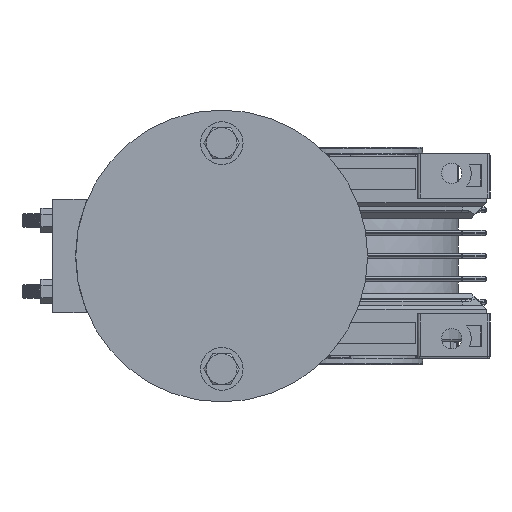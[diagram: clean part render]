
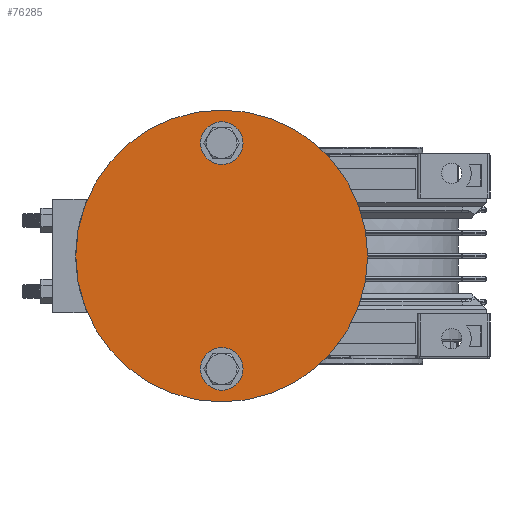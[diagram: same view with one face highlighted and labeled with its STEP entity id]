
A CAD part, left-side view. The second image highlights one B-rep face of the part: STEP entity #76285.
In plain terms, the highlighted planar face has unit normal (-1, 0, 0).
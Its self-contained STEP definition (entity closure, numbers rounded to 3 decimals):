
#1574 = AXIS2_PLACEMENT_3D ( 'NONE', #2242, #46233, #8576 ) ;
#1761 = EDGE_CURVE ( 'NONE', #58002, #74027, #54188, .T. ) ;
#1968 = VERTEX_POINT ( 'NONE', #28160 ) ;
#2123 = ORIENTED_EDGE ( 'NONE', *, *, #19929, .F. ) ;
#2242 = CARTESIAN_POINT ( 'NONE',  ( 87.03, 247.758, 0. ) ) ;
#2752 = EDGE_CURVE ( 'NONE', #43378, #1968, #4810, .T. ) ;
#4402 = EDGE_LOOP ( 'NONE', ( #2123, #25459 ) ) ;
#4810 = CIRCLE ( 'NONE', #44171, 61.75 ) ;
#8051 = FACE_BOUND ( 'NONE', #4402, .T. ) ;
#8576 = DIRECTION ( 'NONE',  ( 0., 0., 1. ) ) ;
#9599 = CIRCLE ( 'NONE', #76162, 9.005 ) ;
#10618 = DIRECTION ( 'NONE',  ( -1., 0., 0. ) ) ;
#13955 = CIRCLE ( 'NONE', #41135, 61.75 ) ;
#16016 = AXIS2_PLACEMENT_3D ( 'NONE', #32278, #76328, #38644 ) ;
#17459 = CARTESIAN_POINT ( 'NONE',  ( 87.03, 186.008, -38.775 ) ) ;
#17540 = CIRCLE ( 'NONE', #61797, 9.005 ) ;
#18908 = EDGE_CURVE ( 'NONE', #26390, #21660, #17540, .T. ) ;
#19427 = CARTESIAN_POINT ( 'NONE',  ( 87.03, 186.008, 47.78 ) ) ;
#19929 = EDGE_CURVE ( 'NONE', #21660, #26390, #33081, .T. ) ;
#20122 = DIRECTION ( 'NONE',  ( 1., 0., 0. ) ) ;
#21197 = CARTESIAN_POINT ( 'NONE',  ( 87.03, 186.008, 47.78 ) ) ;
#21660 = VERTEX_POINT ( 'NONE', #69116 ) ;
#23392 = ORIENTED_EDGE ( 'NONE', *, *, #1761, .F. ) ;
#24872 = ORIENTED_EDGE ( 'NONE', *, *, #72509, .F. ) ;
#25459 = ORIENTED_EDGE ( 'NONE', *, *, #18908, .F. ) ;
#25718 = DIRECTION ( 'NONE',  ( 0., 0., 1. ) ) ;
#26390 = VERTEX_POINT ( 'NONE', #17459 ) ;
#27083 = DIRECTION ( 'NONE',  ( 1., 0., 0. ) ) ;
#27487 = DIRECTION ( 'NONE',  ( 0., 0., 1. ) ) ;
#28160 = CARTESIAN_POINT ( 'NONE',  ( 87.03, 186.008, -61.75 ) ) ;
#28356 = EDGE_LOOP ( 'NONE', ( #23392, #24872 ) ) ;
#32216 = CARTESIAN_POINT ( 'NONE',  ( 87.03, 186.008, 38.775 ) ) ;
#32278 = CARTESIAN_POINT ( 'NONE',  ( 87.03, 186.008, -47.78 ) ) ;
#33081 = CIRCLE ( 'NONE', #16016, 9.005 ) ;
#37555 = FACE_BOUND ( 'NONE', #28356, .T. ) ;
#38644 = DIRECTION ( 'NONE',  ( 0., 0., -1. ) ) ;
#40251 = ORIENTED_EDGE ( 'NONE', *, *, #2752, .F. ) ;
#41135 = AXIS2_PLACEMENT_3D ( 'NONE', #57789, #20122, #64135 ) ;
#43378 = VERTEX_POINT ( 'NONE', #63771 ) ;
#44171 = AXIS2_PLACEMENT_3D ( 'NONE', #64825, #27083, #71144 ) ;
#46233 = DIRECTION ( 'NONE',  ( -1., 0., 0. ) ) ;
#48309 = CARTESIAN_POINT ( 'NONE',  ( 87.03, 186.008, -47.78 ) ) ;
#54188 = CIRCLE ( 'NONE', #63539, 9.005 ) ;
#54312 = FACE_OUTER_BOUND ( 'NONE', #68756, .T. ) ;
#54631 = DIRECTION ( 'NONE',  ( 0., 0., -1. ) ) ;
#57789 = CARTESIAN_POINT ( 'NONE',  ( 87.03, 186.008, 0. ) ) ;
#58002 = VERTEX_POINT ( 'NONE', #80349 ) ;
#58614 = PLANE ( 'NONE',  #1574 ) ;
#61797 = AXIS2_PLACEMENT_3D ( 'NONE', #48309, #10618, #54631 ) ;
#63421 = DIRECTION ( 'NONE',  ( -1., 0., 0. ) ) ;
#63539 = AXIS2_PLACEMENT_3D ( 'NONE', #19427, #63421, #25718 ) ;
#63771 = CARTESIAN_POINT ( 'NONE',  ( 87.03, 186.008, 61.75 ) ) ;
#64135 = DIRECTION ( 'NONE',  ( 0., 0., -1. ) ) ;
#64825 = CARTESIAN_POINT ( 'NONE',  ( 87.03, 186.008, 0. ) ) ;
#65234 = DIRECTION ( 'NONE',  ( -1., 0., 0. ) ) ;
#68756 = EDGE_LOOP ( 'NONE', ( #75030, #40251 ) ) ;
#69116 = CARTESIAN_POINT ( 'NONE',  ( 87.03, 186.008, -56.785 ) ) ;
#71144 = DIRECTION ( 'NONE',  ( 0., 0., -1. ) ) ;
#72509 = EDGE_CURVE ( 'NONE', #74027, #58002, #9599, .T. ) ;
#74027 = VERTEX_POINT ( 'NONE', #32216 ) ;
#75030 = ORIENTED_EDGE ( 'NONE', *, *, #76159, .F. ) ;
#76159 = EDGE_CURVE ( 'NONE', #1968, #43378, #13955, .T. ) ;
#76162 = AXIS2_PLACEMENT_3D ( 'NONE', #21197, #65234, #27487 ) ;
#76285 = ADVANCED_FACE ( 'NONE', ( #8051, #37555, #54312 ), #58614, .T. ) ;
#76328 = DIRECTION ( 'NONE',  ( -1., 0., 0. ) ) ;
#80349 = CARTESIAN_POINT ( 'NONE',  ( 87.03, 186.008, 56.785 ) ) ;
